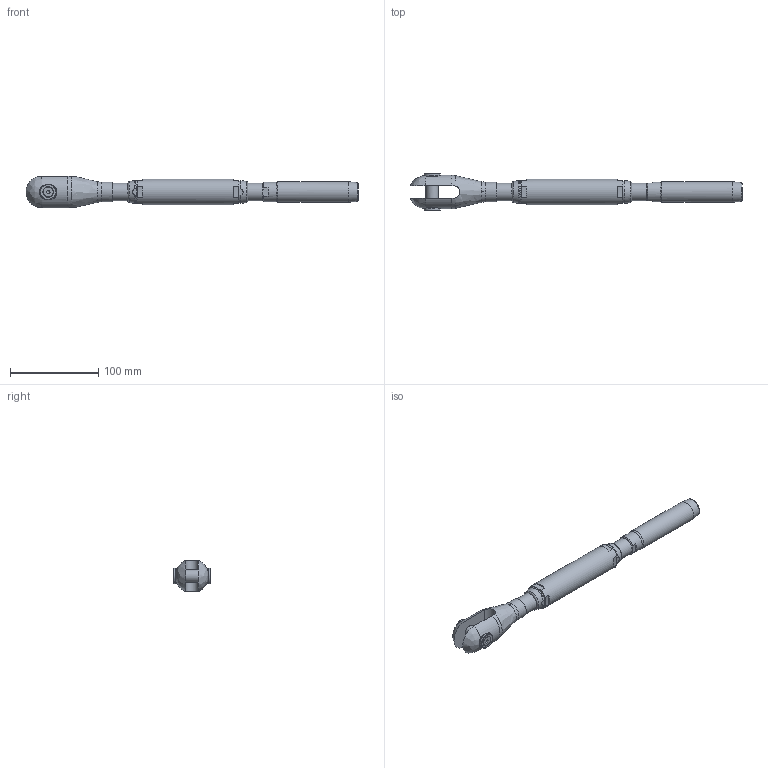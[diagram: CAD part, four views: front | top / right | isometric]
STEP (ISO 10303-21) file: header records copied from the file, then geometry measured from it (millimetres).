
FILE_DESCRIPTION(/* description */ (''),/* implementation_level */ '2;1');
FILE_NAME(/* name */ 'TBC 10_S355',/* time_stamp */ '2023-05-23T18:17:30+02:00',/* author */ (''),/* organization */ (''),/* preprocessor_version */ 'ST-DEVELOPER v16.5',/* originating_system */ 'Rhino 7.22',/* authorisation */ '');
FILE_SCHEMA (('CONFIG_CONTROL_DESIGN'));
Length unit declared in the file: millimetre
Products named in the file (1): Document
Bounding box: 376.62 x 42.41 x 35.33 mm (x, y, z)
Volume: 187355.3 mm3; surface area: 57236 mm2
Topology: 10 solids, 10 shells, 142 faces, 388 edges, 267 vertices
Faces by surface type: plane 66, bspline 41, cylinder 35
Full cylindrical faces by diameter (mm): 4.917 x2, 6 x2, 6.5 x2, 11.34 x2, 14 x1, 15 x2, 17.294 x4, 18 x2, 20 x2, 22.2 x2, 23 x1, 23.3 x1, 29 x1
Entity records: 5917 total; most frequent: CARTESIAN_POINT 3461, ORIENTED_EDGE 768, EDGE_CURVE 384, VERTEX_POINT 267, EDGE_LOOP 161, B_SPLINE_CURVE_WITH_KNOTS 160, ADVANCED_FACE 142, FACE_OUTER_BOUND 142
